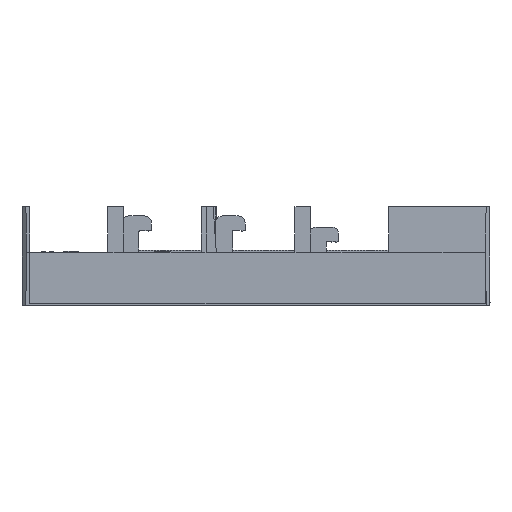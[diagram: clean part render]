
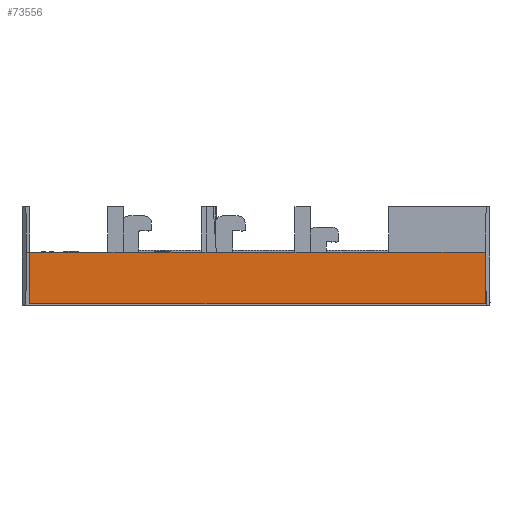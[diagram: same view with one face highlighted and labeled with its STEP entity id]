
A CAD part, front view. The second image highlights one B-rep face of the part: STEP entity #73556.
In plain terms, the highlighted planar face has unit normal (0, -1, 0).
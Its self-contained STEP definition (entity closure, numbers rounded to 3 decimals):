
#551 = EDGE_CURVE ( 'NONE', #64799, #35823, #3454, .T. ) ;
#2331 = VECTOR ( 'NONE', #17191, 1000. ) ;
#2518 = LINE ( 'NONE', #84059, #48620 ) ;
#3454 = LINE ( 'NONE', #77018, #2331 ) ;
#4134 = VECTOR ( 'NONE', #22347, 1000. ) ;
#6010 = VECTOR ( 'NONE', #86672, 1000. ) ;
#6949 = ORIENTED_EDGE ( 'NONE', *, *, #41141, .T. ) ;
#7533 = VERTEX_POINT ( 'NONE', #17620 ) ;
#7756 = LINE ( 'NONE', #34795, #6010 ) ;
#8082 = LINE ( 'NONE', #36006, #30614 ) ;
#10349 = CARTESIAN_POINT ( 'NONE',  ( -2.044, 0., -29. ) ) ;
#10904 = DIRECTION ( 'NONE',  ( -1., 0., 0. ) ) ;
#11033 = EDGE_CURVE ( 'NONE', #77375, #7533, #25810, .T. ) ;
#12963 = VERTEX_POINT ( 'NONE', #61418 ) ;
#14107 = EDGE_CURVE ( 'NONE', #12963, #22936, #26902, .T. ) ;
#16026 = CARTESIAN_POINT ( 'NONE',  ( 297., 0., -385.827 ) ) ;
#17191 = DIRECTION ( 'NONE',  ( 1., 0., 0. ) ) ;
#17393 = CARTESIAN_POINT ( 'NONE',  ( 55., 0., -29. ) ) ;
#17620 = CARTESIAN_POINT ( 'NONE',  ( 65., 0., -29. ) ) ;
#17941 = VERTEX_POINT ( 'NONE', #27895 ) ;
#18981 = CARTESIAN_POINT ( 'NONE',  ( 5., 0., -62. ) ) ;
#19864 = VECTOR ( 'NONE', #62983, 1000. ) ;
#20196 = LINE ( 'NONE', #47641, #31321 ) ;
#21413 = DIRECTION ( 'NONE',  ( 0., 0., -1. ) ) ;
#22347 = DIRECTION ( 'NONE',  ( 1., 0., 0. ) ) ;
#22936 = VERTEX_POINT ( 'NONE', #84019 ) ;
#24181 = ORIENTED_EDGE ( 'NONE', *, *, #61251, .T. ) ;
#25337 = VECTOR ( 'NONE', #59020, 1000. ) ;
#25810 = LINE ( 'NONE', #31997, #25337 ) ;
#26902 = LINE ( 'NONE', #80060, #85141 ) ;
#27301 = EDGE_CURVE ( 'NONE', #36146, #75593, #83050, .T. ) ;
#27487 = CARTESIAN_POINT ( 'NONE',  ( 297., 0., -62. ) ) ;
#27895 = CARTESIAN_POINT ( 'NONE',  ( 118., 0., -29. ) ) ;
#28492 = DIRECTION ( 'NONE',  ( 0., 0., 1. ) ) ;
#29432 = ORIENTED_EDGE ( 'NONE', *, *, #68853, .F. ) ;
#30614 = VECTOR ( 'NONE', #28492, 1000. ) ;
#31119 = ORIENTED_EDGE ( 'NONE', *, *, #14107, .T. ) ;
#31321 = VECTOR ( 'NONE', #80424, 1000. ) ;
#31997 = CARTESIAN_POINT ( 'NONE',  ( -2.044, 0., -29. ) ) ;
#34252 = ORIENTED_EDGE ( 'NONE', *, *, #36622, .T. ) ;
#34782 = CARTESIAN_POINT ( 'NONE',  ( 150., 0., -29. ) ) ;
#34795 = CARTESIAN_POINT ( 'NONE',  ( -2.044, 0., -29. ) ) ;
#35823 = VERTEX_POINT ( 'NONE', #27487 ) ;
#36006 = CARTESIAN_POINT ( 'NONE',  ( 5., 0., -385.827 ) ) ;
#36146 = VERTEX_POINT ( 'NONE', #38490 ) ;
#36622 = EDGE_CURVE ( 'NONE', #17941, #77375, #7756, .T. ) ;
#38490 = CARTESIAN_POINT ( 'NONE',  ( 5., 0., -29. ) ) ;
#39354 = DIRECTION ( 'NONE',  ( -1., 0., 0. ) ) ;
#41141 = EDGE_CURVE ( 'NONE', #68524, #17941, #78799, .T. ) ;
#44037 = LINE ( 'NONE', #10349, #78411 ) ;
#44803 = CARTESIAN_POINT ( 'NONE',  ( 185., 0., -29. ) ) ;
#46032 = EDGE_CURVE ( 'NONE', #35823, #12963, #83806, .T. ) ;
#47641 = CARTESIAN_POINT ( 'NONE',  ( -2.044, 0., -29. ) ) ;
#47727 = ORIENTED_EDGE ( 'NONE', *, *, #46032, .T. ) ;
#48620 = VECTOR ( 'NONE', #10904, 1000. ) ;
#50118 = ORIENTED_EDGE ( 'NONE', *, *, #51676, .T. ) ;
#50920 = CARTESIAN_POINT ( 'NONE',  ( -2.044, 0., -29. ) ) ;
#51676 = EDGE_CURVE ( 'NONE', #72651, #68524, #44037, .T. ) ;
#58883 = ORIENTED_EDGE ( 'NONE', *, *, #63933, .T. ) ;
#58905 = AXIS2_PLACEMENT_3D ( 'NONE', #82095, #87421, #21413 ) ;
#59020 = DIRECTION ( 'NONE',  ( -1., 0., 0. ) ) ;
#61251 = EDGE_CURVE ( 'NONE', #22936, #72651, #20196, .T. ) ;
#61418 = CARTESIAN_POINT ( 'NONE',  ( 297., 0., -29. ) ) ;
#62201 = VECTOR ( 'NONE', #39354, 1000. ) ;
#62983 = DIRECTION ( 'NONE',  ( 0., 0., 1. ) ) ;
#63933 = EDGE_CURVE ( 'NONE', #7533, #75593, #2518, .T. ) ;
#64799 = VERTEX_POINT ( 'NONE', #18981 ) ;
#66901 = CARTESIAN_POINT ( 'NONE',  ( 115., 0., -29. ) ) ;
#68145 = ORIENTED_EDGE ( 'NONE', *, *, #11033, .T. ) ;
#68524 = VERTEX_POINT ( 'NONE', #83955 ) ;
#68780 = ORIENTED_EDGE ( 'NONE', *, *, #27301, .F. ) ;
#68853 = EDGE_CURVE ( 'NONE', #64799, #36146, #8082, .T. ) ;
#71479 = DIRECTION ( 'NONE',  ( -1., 0., 0. ) ) ;
#72651 = VERTEX_POINT ( 'NONE', #44803 ) ;
#73556 = ADVANCED_FACE ( 'NONE', ( #82547 ), #74141, .T. ) ;
#74141 = PLANE ( 'NONE',  #58905 ) ;
#75593 = VERTEX_POINT ( 'NONE', #17393 ) ;
#77018 = CARTESIAN_POINT ( 'NONE',  ( 5., 0., -62. ) ) ;
#77375 = VERTEX_POINT ( 'NONE', #66901 ) ;
#78411 = VECTOR ( 'NONE', #71479, 1000. ) ;
#78799 = LINE ( 'NONE', #50920, #62201 ) ;
#80060 = CARTESIAN_POINT ( 'NONE',  ( -2.044, 0., -29. ) ) ;
#80424 = DIRECTION ( 'NONE',  ( -1., 0., 0. ) ) ;
#80496 = DIRECTION ( 'NONE',  ( -1., 0., 0. ) ) ;
#82095 = CARTESIAN_POINT ( 'NONE',  ( 5., 0., -385.827 ) ) ;
#82547 = FACE_OUTER_BOUND ( 'NONE', #83611, .T. ) ;
#83050 = LINE ( 'NONE', #34782, #4134 ) ;
#83611 = EDGE_LOOP ( 'NONE', ( #29432, #84841, #47727, #31119, #24181, #50118, #6949, #34252, #68145, #58883, #68780 ) ) ;
#83806 = LINE ( 'NONE', #16026, #19864 ) ;
#83955 = CARTESIAN_POINT ( 'NONE',  ( 175., 0., -29. ) ) ;
#84019 = CARTESIAN_POINT ( 'NONE',  ( 235., 0., -29. ) ) ;
#84059 = CARTESIAN_POINT ( 'NONE',  ( -2.044, 0., -29. ) ) ;
#84841 = ORIENTED_EDGE ( 'NONE', *, *, #551, .T. ) ;
#85141 = VECTOR ( 'NONE', #80496, 1000. ) ;
#86672 = DIRECTION ( 'NONE',  ( -1., 0., 0. ) ) ;
#87421 = DIRECTION ( 'NONE',  ( 0., -1., 0. ) ) ;
